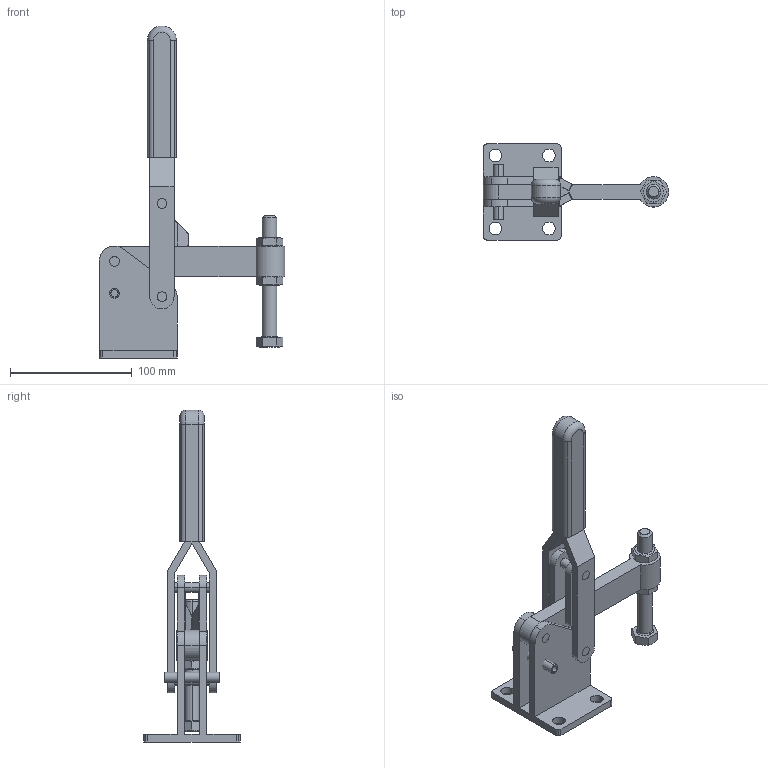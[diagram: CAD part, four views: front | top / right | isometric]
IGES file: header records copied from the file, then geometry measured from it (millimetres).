
Start section:  Level              Description ========  ================================        1  SANDFIELD
Global section: file name: D:/WORK/SANDFIELD/sandfield_3d/Vertical_Action/MG/Mg1/mg1Sb.IGS; native system: AutoCAD-13_c4a_Mh (HwLock) (Microsoft Windows NT Version 4.0 (x86)); preprocessor: AutoCAD IGES Translator R13.1c2 (Jan 23 1997) from Autodesk, Inc.; author: ProCAD; organization: Sandfield Eng Co.; date: 990520.143507; units: millimetre
Bounding box: 152.5 x 79 x 273 mm (x, y, z)
Volume: 271723.8 mm3; surface area: 95417.6 mm2
Topology: 14 solids, 14 shells, 226 faces, 591 edges, 394 vertices
Faces by surface type: cylinder 78, bspline 71, plane 67, torus 8, cone 2
